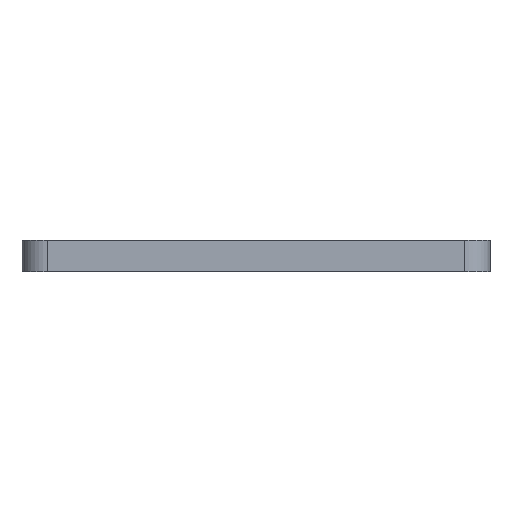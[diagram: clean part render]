
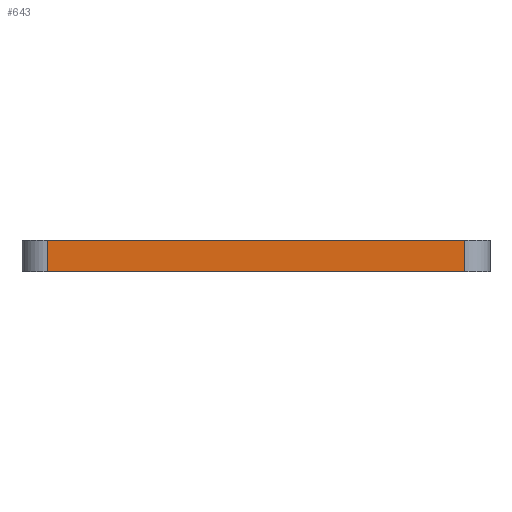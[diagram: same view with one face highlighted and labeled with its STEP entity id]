
A CAD part, front view. The second image highlights one B-rep face of the part: STEP entity #643.
In plain terms, the highlighted planar face has unit normal (0, -1, 0).
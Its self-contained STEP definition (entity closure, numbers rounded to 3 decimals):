
#13 = VERTEX_POINT ( 'NONE', #467 ) ;
#17 = DIRECTION ( 'NONE',  ( 0., 0., -1. ) ) ;
#54 = EDGE_CURVE ( 'NONE', #93, #13, #775, .T. ) ;
#59 = ORIENTED_EDGE ( 'NONE', *, *, #136, .F. ) ;
#62 = CARTESIAN_POINT ( 'NONE',  ( -18.125, -46.396, 0. ) ) ;
#93 = VERTEX_POINT ( 'NONE', #690 ) ;
#128 = LINE ( 'NONE', #241, #607 ) ;
#136 = EDGE_CURVE ( 'NONE', #563, #455, #597, .T. ) ;
#158 = EDGE_LOOP ( 'NONE', ( #474, #59, #342, #731 ) ) ;
#202 = CARTESIAN_POINT ( 'NONE',  ( -51.125, -46.396, 2.5 ) ) ;
#241 = CARTESIAN_POINT ( 'NONE',  ( 0., -46.396, 0. ) ) ;
#342 = ORIENTED_EDGE ( 'NONE', *, *, #924, .F. ) ;
#427 = DIRECTION ( 'NONE',  ( 0., 1., 0. ) ) ;
#448 = CARTESIAN_POINT ( 'NONE',  ( 0., -46.396, 2.5 ) ) ;
#455 = VERTEX_POINT ( 'NONE', #62 ) ;
#467 = CARTESIAN_POINT ( 'NONE',  ( -51.125, -46.396, 0. ) ) ;
#474 = ORIENTED_EDGE ( 'NONE', *, *, #899, .T. ) ;
#493 = DIRECTION ( 'NONE',  ( 1., 0., 0. ) ) ;
#499 = VECTOR ( 'NONE', #547, 1000. ) ;
#510 = VECTOR ( 'NONE', #682, 1000. ) ;
#547 = DIRECTION ( 'NONE',  ( 0., 0., -1. ) ) ;
#559 = LINE ( 'NONE', #448, #510 ) ;
#563 = VERTEX_POINT ( 'NONE', #571 ) ;
#571 = CARTESIAN_POINT ( 'NONE',  ( -18.125, -46.396, 2.5 ) ) ;
#597 = LINE ( 'NONE', #947, #499 ) ;
#607 = VECTOR ( 'NONE', #493, 1000. ) ;
#635 = FACE_OUTER_BOUND ( 'NONE', #158, .T. ) ;
#643 = ADVANCED_FACE ( 'NONE', ( #635 ), #921, .F. ) ;
#682 = DIRECTION ( 'NONE',  ( 1., 0., 0. ) ) ;
#690 = CARTESIAN_POINT ( 'NONE',  ( -51.125, -46.396, 2.5 ) ) ;
#705 = DIRECTION ( 'NONE',  ( -1., 0., 0. ) ) ;
#731 = ORIENTED_EDGE ( 'NONE', *, *, #54, .T. ) ;
#739 = VECTOR ( 'NONE', #17, 1000. ) ;
#775 = LINE ( 'NONE', #202, #739 ) ;
#899 = EDGE_CURVE ( 'NONE', #13, #455, #128, .T. ) ;
#903 = CARTESIAN_POINT ( 'NONE',  ( 0., -46.396, 2.5 ) ) ;
#921 = PLANE ( 'NONE',  #944 ) ;
#924 = EDGE_CURVE ( 'NONE', #93, #563, #559, .T. ) ;
#944 = AXIS2_PLACEMENT_3D ( 'NONE', #903, #427, #705 ) ;
#947 = CARTESIAN_POINT ( 'NONE',  ( -18.125, -46.396, 2.5 ) ) ;
